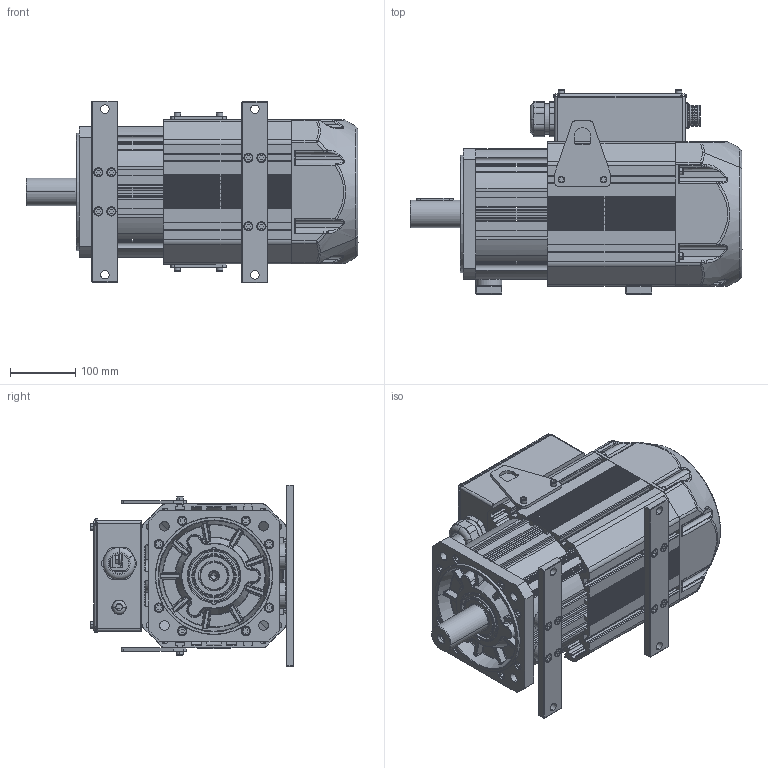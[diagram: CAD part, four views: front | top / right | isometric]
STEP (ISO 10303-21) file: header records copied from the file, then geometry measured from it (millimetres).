
FILE_DESCRIPTION((''),'2;1');
FILE_NAME('100N___SW0001','2025-08-25T08:44:34',('0109502'),(''),'CREO PARAMETRIC BY PTC INC, 2019080','CREO PARAMETRIC BY PTC INC, 2019080','');
FILE_SCHEMA(('CONFIG_CONTROL_DESIGN'));
Products named in the file (1): 100N___SW0001
Bounding box: 509 x 312.5 x 278.25 mm (x, y, z)
Surface area: 1609413.7 mm2 (no closed solid volume)
Topology: 0 solids, 200 shells, 3430 faces, 11652 edges, 8265 vertices
Faces by surface type: plane 1555, cylinder 1175, torus 261, bspline 214, cone 192, sphere 33
Entity records: 142478 total; most frequent: CARTESIAN_POINT 41644, DIRECTION 21351, ORIENTED_EDGE 19325, EDGE_CURVE 11632, VERTEX_POINT 8265, AXIS2_PLACEMENT_3D 7307, VECTOR 6737, LINE 6737
